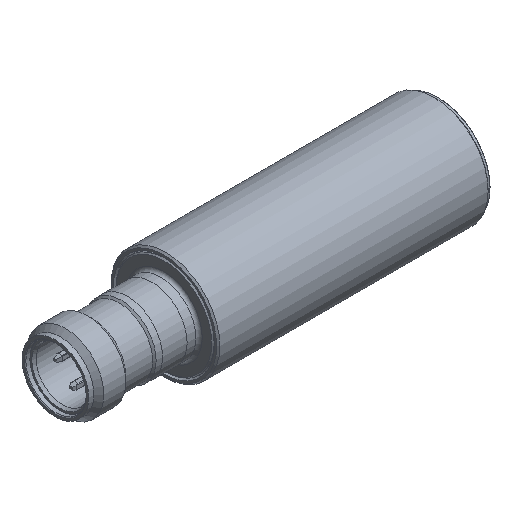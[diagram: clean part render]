
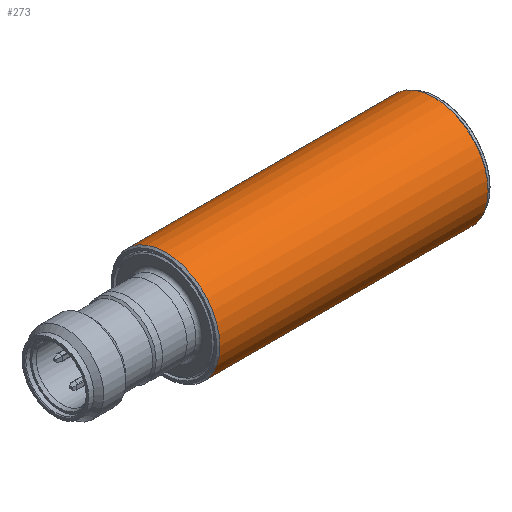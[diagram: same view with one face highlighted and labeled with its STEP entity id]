
A CAD part, isometric view. The second image highlights one B-rep face of the part: STEP entity #273.
In plain terms, the highlighted cylindrical face has radius 8.5 mm (diameter 17 mm), a full revolution.
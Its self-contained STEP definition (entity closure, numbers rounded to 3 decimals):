
#273 = ADVANCED_FACE( '', ( #589, #590 ), #591, .T. );
#589 = FACE_OUTER_BOUND( '', #937, .T. );
#590 = FACE_OUTER_BOUND( '', #938, .T. );
#591 = CYLINDRICAL_SURFACE( '', #939, 8.5 );
#937 = EDGE_LOOP( '', ( #1661 ) );
#938 = EDGE_LOOP( '', ( #1662 ) );
#939 = AXIS2_PLACEMENT_3D( '', #1663, #1664, #1665 );
#1661 = ORIENTED_EDGE( '', *, *, #2257, .T. );
#1662 = ORIENTED_EDGE( '', *, *, #2238, .T. );
#1663 = CARTESIAN_POINT( '', ( -23.85, 0., 0. ) );
#1664 = DIRECTION( '', ( -1., 0., 0. ) );
#1665 = DIRECTION( '', ( 0., 0., 1. ) );
#2238 = EDGE_CURVE( '', #2766, #2766, #2767, .F. );
#2257 = EDGE_CURVE( '', #2794, #2794, #2795, .T. );
#2766 = VERTEX_POINT( '', #3474 );
#2767 = CIRCLE( '', #3475, 8.5 );
#2794 = VERTEX_POINT( '', #3516 );
#2795 = CIRCLE( '', #3517, 8.5 );
#3474 = CARTESIAN_POINT( '', ( 18.4, 0., 8.5 ) );
#3475 = AXIS2_PLACEMENT_3D( '', #3944, #3945, #3946 );
#3516 = CARTESIAN_POINT( '', ( -23.6, 0., 8.5 ) );
#3517 = AXIS2_PLACEMENT_3D( '', #3961, #3962, #3963 );
#3944 = CARTESIAN_POINT( '', ( 18.4, 0., 0. ) );
#3945 = DIRECTION( '', ( 1., 0., 0. ) );
#3946 = DIRECTION( '', ( 0., 0., 1. ) );
#3961 = CARTESIAN_POINT( '', ( -23.6, 0., 0. ) );
#3962 = DIRECTION( '', ( 1., 0., 0. ) );
#3963 = DIRECTION( '', ( 0., 0., 1. ) );
